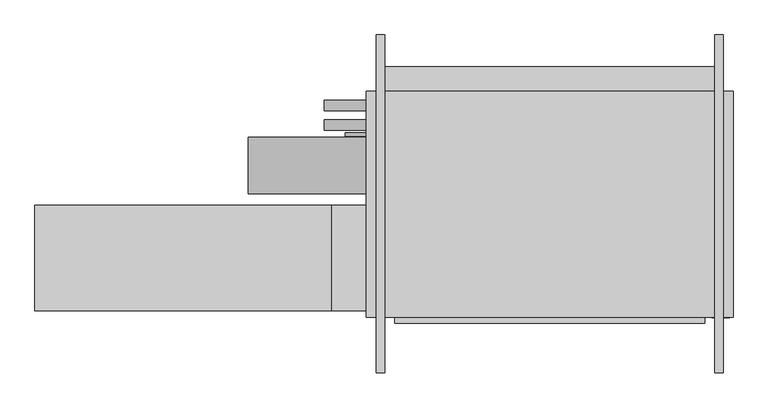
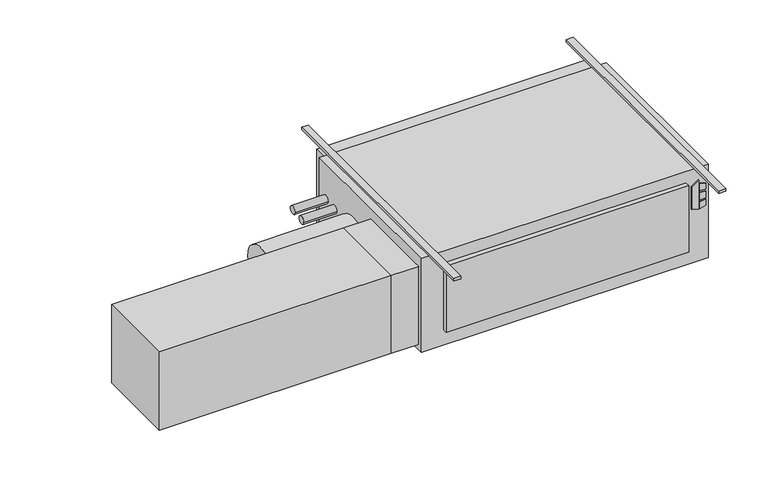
"""IFC4 building model written with IfcOpenShell, lengths in millimetres: proxy geometry."""

from ifc_helpers import new_model, si_unit, point, frame, frame_2d, origin, origin_with_axes, place, context, project, spatial, polyline, circle_curve, trimmed, segment, composite_curve, outline, extrude, source, transform, mapped, element, save


def mechanical_equipment_edd249ce(model_context):
    return source(origin(), model_context, "Body", "SweptSolid", [
        extrude(outline(polyline([(-193.2519297, 735.0868862), (-203.2, 767.2602728), (-61.0290756, 767.2602728), (-84.0510817, 735.0868862), (-193.2519297, 735.0868862)])), frame((0.0, -647.7, 0.0), z_axis=(0.0, 1.0, 0.0), x_axis=(0.0, 0.0, 1.0)), (0.0, 0.0, 1.0), 3.175),
        extrude(outline(polyline([(-114.2526443, 774.0186058), (-117.4550368, 800.1), (-88.2261958, 800.1), (-80.1617807, 774.0186058), (-114.2526443, 774.0186058)])), frame((0.0, -647.7, 0.0), z_axis=(0.0, 1.0, 0.0), x_axis=(0.0, 0.0, 1.0)), (0.0, 0.0, 1.0), 3.175),
        extrude(outline(polyline([(-166.1161712, 800.1), (-169.7816721, 774.0186058), (-203.2, 774.0186058), (-194.5657628, 800.1), (-166.1161712, 800.1)])), frame((0.0, -647.7, 0.0), z_axis=(0.0, 1.0, 0.0), x_axis=(0.0, 0.0, 1.0)), (0.0, 0.0, 1.0), 3.175),
        extrude(outline(polyline([(-126.8010097, 800.1), (-124.5191834, 774.0186058), (-160.4567319, 774.0186058), (-157.7154669, 800.1), (-126.8010097, 800.1)])), frame((0.0, -647.7, 0.0), z_axis=(0.0, 1.0, 0.0), x_axis=(0.0, 0.0, 1.0)), (0.0, 0.0, 1.0), 3.175),
        extrude(outline(polyline([(711.2, -666.877), (-406.4, -666.877), (-406.4, -644.525), (711.2, -644.525), (711.2, -666.877)])), frame((0.0, 0.0, -381.0), z_axis=(0.0, 0.0, 1.0), x_axis=(1.0, 0.0, 0.0)), (0.0, 0.0, 1.0), 323.85),
        extrude(outline(polyline([(-1701.8, -622.3), (-1701.8, -241.3), (-635.0, -241.3), (-635.0, -622.3), (-1701.8, -622.3)])), frame((0.0, 0.0, -431.8), z_axis=(0.0, 0.0, 1.0), x_axis=(1.0, 0.0, 0.0)), (0.0, 0.0, 1.0), 381.0),
        extrude(outline(polyline([(-508.0, -241.3), (-508.0, -622.3), (-635.0, -622.3), (-635.0, -241.3), (-508.0, -241.3)])), frame((0.0, 0.0, -431.8), z_axis=(0.0, 0.0, 1.0), x_axis=(1.0, 0.0, 0.0)), (0.0, 0.0, 1.0), 381.0),
        extrude(outline(composite_curve([segment(trimmed(circle_curve(frame_2d((-98.4896516, -228.6360165)), 101.6), [point((-200.0896516, -228.6360165))], [point((3.1103484, -228.6360165))], False, "CARTESIAN"), True, "CONTINUOUS"), segment(trimmed(circle_curve(frame_2d((-98.4896516, -228.6360165)), 101.6), [point((3.1103484, -228.6360165))], [point((-200.0896516, -228.6360165))], False, "CARTESIAN"), True, "CONTINUOUS")], self_intersect=False)), frame((-933.45, 0.0, 0.0), z_axis=(1.0, 0.0, 0.0), x_axis=(0.0, 1.0, 0.0)), (0.0, 0.0, 1.0), 425.45),
        extrude(outline(composite_curve([segment(trimmed(circle_curve(frame_2d((47.625, -177.8)), 19.05), [point((28.575, -177.8))], [point((66.675, -177.8))], False, "CARTESIAN"), True, "CONTINUOUS"), segment(trimmed(circle_curve(frame_2d((47.625, -177.8)), 19.05), [point((66.675, -177.8))], [point((28.575, -177.8))], False, "CARTESIAN"), True, "CONTINUOUS")], self_intersect=False)), frame((-660.4, 0.0, 0.0), z_axis=(1.0, 0.0, 0.0), x_axis=(0.0, 1.0, 0.0)), (0.0, 0.0, 1.0), 152.4),
        extrude(outline(composite_curve([segment(trimmed(circle_curve(frame_2d((117.475, -171.45)), 19.05), [point((98.425, -171.45))], [point((136.525, -171.45))], False, "CARTESIAN"), True, "CONTINUOUS"), segment(trimmed(circle_curve(frame_2d((117.475, -171.45)), 19.05), [point((136.525, -171.45))], [point((98.425, -171.45))], False, "CARTESIAN"), True, "CONTINUOUS")], self_intersect=False)), frame((-660.4, 0.0, 0.0), z_axis=(1.0, 0.0, 0.0), x_axis=(0.0, 1.0, 0.0)), (0.0, 0.0, 1.0), 152.4),
        extrude(outline(composite_curve([segment(trimmed(circle_curve(frame_2d((12.7, -409.575)), 6.35), [point((6.35, -409.575))], [point((19.05, -409.575))], False, "CARTESIAN"), True, "CONTINUOUS"), segment(trimmed(circle_curve(frame_2d((12.7, -409.575)), 6.35), [point((19.05, -409.575))], [point((6.35, -409.575))], False, "CARTESIAN"), True, "CONTINUOUS")], self_intersect=False)), frame((-584.2, 0.0, 0.0), z_axis=(1.0, 0.0, 0.0), x_axis=(0.0, 1.0, 0.0)), (0.0, 0.0, 1.0), 76.2),
        extrude(outline(polyline([(812.8, 168.275), (812.8, -644.525), (-508.0, -644.525), (-508.0, 168.275), (812.8, 168.275)])), frame((0.0, 0.0, -457.2), z_axis=(0.0, 0.0, 1.0), x_axis=(1.0, 0.0, 0.0)), (0.0, 0.0, 1.0), 457.2),
        extrude(outline(polyline([(-469.9, 257.175), (774.7, 257.175), (774.7, 168.275), (-469.9, 168.275), (-469.9, 257.175)])), frame((0.0, 0.0, -381.0), z_axis=(0.0, 0.0, 1.0), x_axis=(1.0, 0.0, 0.0)), (0.0, 0.0, 1.0), 355.6),
        extrude(outline(polyline([(-441.325, 371.475), (-441.325, -844.677), (-473.075, -844.677), (-473.075, 371.475), (-441.325, 371.475)])), origin_with_axes(), (0.0, 0.0, 1.0), 12.7),
        extrude(outline(polyline([(777.875, 371.475), (777.875, -844.677), (746.125, -844.677), (746.125, 371.475), (777.875, 371.475)])), origin_with_axes(), (0.0, 0.0, 1.0), 12.7),
    ])


if __name__ == "__main__":
    model = new_model("IFC4")
    model_context = context("Model", 3, world=origin())
    ifc_project = project(units=[si_unit("LENGTHUNIT", "METRE", prefix="MILLI")], contexts=[model_context])
    site = spatial("IfcSite", under=ifc_project)
    building = spatial("IfcBuilding", under=site)
    placement = place(None, origin())
    mechanical_equipment_shape = mechanical_equipment_edd249ce(model_context)
    element("IfcBuildingElementProxy", 1, Name="High_Capacity_Horizontal_Cabinet_Fan_Coil_Unit_-_HTY_-_IEC_-_2-Pipe_WO-Attenuator_LH Side_2022 : Size 18 - 277v/60Hz/1Ph - 8/0 Coil - 8\" AirIn", ObjectType="High_Capacity_Horizontal_Cabinet_Fan_Coil_Unit_-_HTY_-_IEC_-_2-Pipe_WO-Attenuator_LH Side_2022 : Size 18 - 277v/60Hz/1Ph - 8/0 Coil - 8\" AirIn", at=placement, inside=building, context=model_context, shape_type="MappedRepresentation", body=[
        mapped(mechanical_equipment_shape, transform((0.0, 0.0, 0.0), x_axis=(1.0, 0.0, 0.0), y_axis=(0.0, 1.0, 0.0), z_axis=(0.0, 0.0, 1.0))),
    ])
    save(model, "model.ifc")
